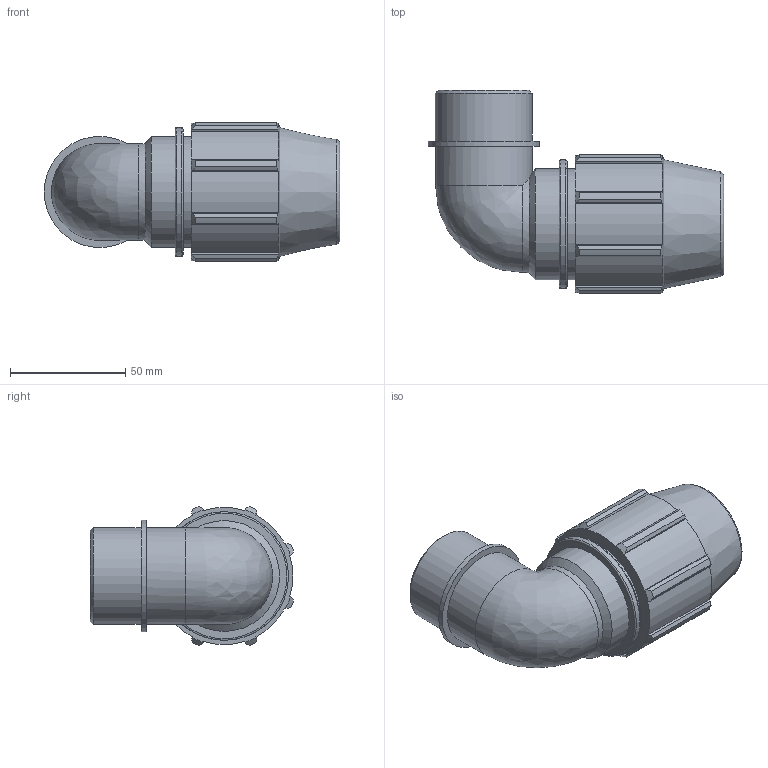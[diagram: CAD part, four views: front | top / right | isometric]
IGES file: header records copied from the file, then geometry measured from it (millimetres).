
Global section: file name: 078500032013_188500032013_0785060320130A.ipt; native system: Autodesk Inventor 2015; preprocessor: unknown; author: KIM; date: 20170606.133121; units: millimetre
Bounding box: 128.1 x 88.11 x 60.22 mm (x, y, z)
Volume: 183927.7 mm3; surface area: 44754.4 mm2
Topology: 1 solids, 1 shells, 86 faces, 237 edges, 158 vertices
Faces by surface type: plane 41, cylinder 23, cone 12, revolution 9, bspline 1
Full cylindrical faces by diameter (mm): 41.91 x2, 48 x2, 48.197 x1, 55.68 x1
